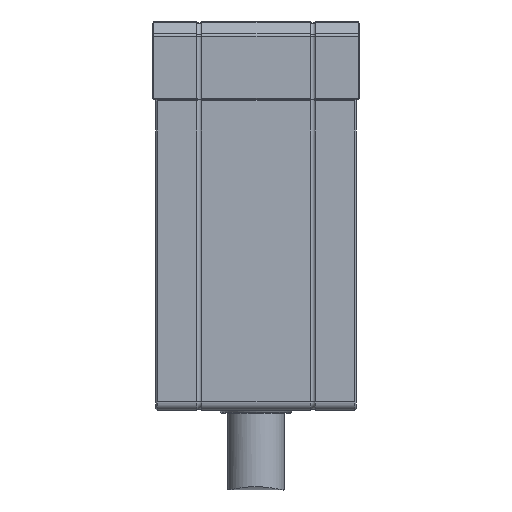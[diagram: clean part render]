
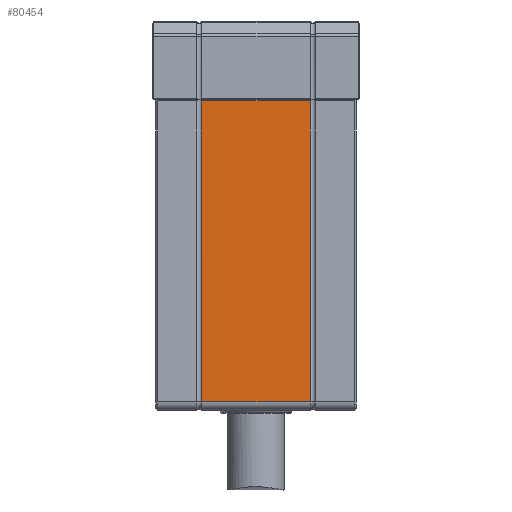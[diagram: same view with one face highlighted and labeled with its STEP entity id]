
A CAD part, left-side view. The second image highlights one B-rep face of the part: STEP entity #80454.
In plain terms, the highlighted planar face has unit normal (-1, 0, 0).
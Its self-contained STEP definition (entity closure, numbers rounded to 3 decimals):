
#3689 = EDGE_CURVE ( 'NONE', #83606, #29493, #14843, .T. ) ;
#6413 = ORIENTED_EDGE ( 'NONE', *, *, #49468, .T. ) ;
#14025 = VECTOR ( 'NONE', #76578, 1000. ) ;
#14463 = DIRECTION ( 'NONE',  ( 0., 1., 0. ) ) ;
#14843 = LINE ( 'NONE', #55584, #14025 ) ;
#16751 = EDGE_LOOP ( 'NONE', ( #51969, #6413, #18207, #40268 ) ) ;
#17241 = VECTOR ( 'NONE', #14463, 1000. ) ;
#18207 = ORIENTED_EDGE ( 'NONE', *, *, #36211, .F. ) ;
#21739 = DIRECTION ( 'NONE',  ( 0., 0., 1. ) ) ;
#26293 = VECTOR ( 'NONE', #21739, 1000. ) ;
#27023 = FACE_OUTER_BOUND ( 'NONE', #16751, .T. ) ;
#28503 = LINE ( 'NONE', #33320, #17241 ) ;
#29493 = VERTEX_POINT ( 'NONE', #61593 ) ;
#31114 = DIRECTION ( 'NONE',  ( 0., 1., 0. ) ) ;
#33320 = CARTESIAN_POINT ( 'NONE',  ( -40., 15.5, -12.2 ) ) ;
#36211 = EDGE_CURVE ( 'NONE', #83606, #38512, #42374, .T. ) ;
#38512 = VERTEX_POINT ( 'NONE', #81276 ) ;
#40268 = ORIENTED_EDGE ( 'NONE', *, *, #3689, .T. ) ;
#40627 = CARTESIAN_POINT ( 'NONE',  ( -40., 8.36, -58.7 ) ) ;
#42374 = LINE ( 'NONE', #40627, #26293 ) ;
#44134 = CARTESIAN_POINT ( 'NONE',  ( -40., -8.36, -58.7 ) ) ;
#49468 = EDGE_CURVE ( 'NONE', #65432, #38512, #28503, .T. ) ;
#51969 = ORIENTED_EDGE ( 'NONE', *, *, #83499, .F. ) ;
#53170 = CARTESIAN_POINT ( 'NONE',  ( -40., 8.36, -58.7 ) ) ;
#55584 = CARTESIAN_POINT ( 'NONE',  ( -40., -15.5, -58.7 ) ) ;
#59454 = DIRECTION ( 'NONE',  ( -1., 0., 0. ) ) ;
#61593 = CARTESIAN_POINT ( 'NONE',  ( -40., -8.36, -58.7 ) ) ;
#63370 = LINE ( 'NONE', #44134, #65320 ) ;
#64223 = DIRECTION ( 'NONE',  ( 0., 0., -1. ) ) ;
#65259 = CARTESIAN_POINT ( 'NONE',  ( -40., -8.36, -12.2 ) ) ;
#65320 = VECTOR ( 'NONE', #64223, 1000. ) ;
#65432 = VERTEX_POINT ( 'NONE', #65259 ) ;
#66444 = PLANE ( 'NONE',  #86209 ) ;
#66896 = CARTESIAN_POINT ( 'NONE',  ( -40., 15.5, -60. ) ) ;
#76578 = DIRECTION ( 'NONE',  ( 0., -1., 0. ) ) ;
#80454 = ADVANCED_FACE ( 'NONE', ( #27023 ), #66444, .T. ) ;
#81276 = CARTESIAN_POINT ( 'NONE',  ( -40., 8.36, -12.2 ) ) ;
#83499 = EDGE_CURVE ( 'NONE', #65432, #29493, #63370, .T. ) ;
#83606 = VERTEX_POINT ( 'NONE', #53170 ) ;
#86209 = AXIS2_PLACEMENT_3D ( 'NONE', #66896, #59454, #31114 ) ;
